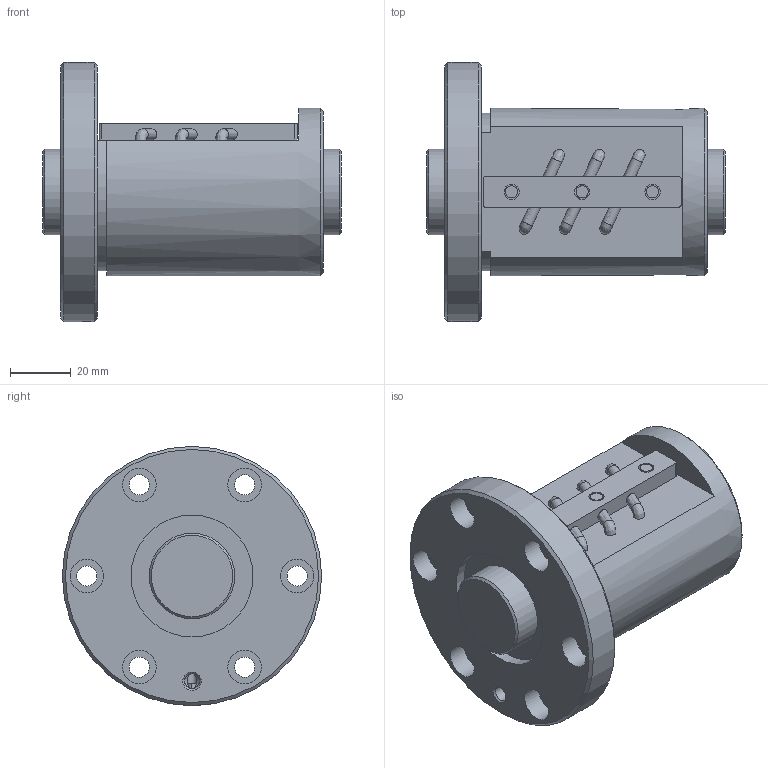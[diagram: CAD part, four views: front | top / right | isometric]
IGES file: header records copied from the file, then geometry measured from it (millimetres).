
Start section: Data from Parasolid IGES Translator 26.0.171, Copyright(c) 2006 Siemens PLM Software. All Rights Reserved.
Global section: file name: BNF2806V-7.5RRG1+98LC0_000_rev.igs; native system: By Siemens PLM Incorporated; preprocessor: XPlus GENERIC/IGES 26.0.171; author: Noname; organization: Noname; date: 20240806.073055; units: millimetre
Bounding box: 98 x 85 x 85 mm (x, y, z)
Surface area: 47302.8 mm2 (no closed solid volume)
Topology: 0 solids, 0 shells, 87 faces, 434 edges, 392 vertices
Faces by surface type: revolution 57, extrusion 30
